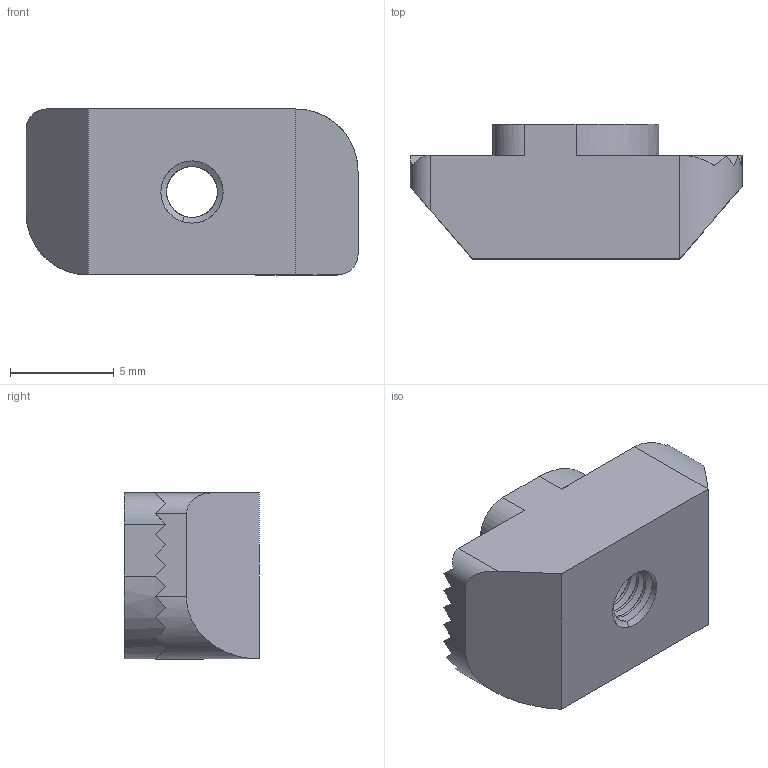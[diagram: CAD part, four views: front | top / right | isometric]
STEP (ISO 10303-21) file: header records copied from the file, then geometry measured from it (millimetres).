
FILE_DESCRIPTION (( 'STEP AP214' ), '1' );
FILE_NAME ('8-1-M3.STEP', '2019-01-08T06:14:12', ( '' ), ( '' ), 'SwSTEP 2.0', 'SolidWorks 2018', '' );
FILE_SCHEMA (( 'AUTOMOTIVE_DESIGN' ));
Length unit declared in the file: millimetre
Products named in the file (1): 8-1-M3
Bounding box: 16 x 6.54 x 8 mm (x, y, z)
Volume: 575.9 mm3; surface area: 573.9 mm2
Topology: 1 solids, 1 shells, 83 faces, 228 edges, 147 vertices
Faces by surface type: plane 44, cylinder 35, bspline 4
Entity records: 4221 total; most frequent: CARTESIAN_POINT 2387, ORIENTED_EDGE 456, DIRECTION 295, EDGE_CURVE 228, VERTEX_POINT 147, VECTOR 115, LINE 115, AXIS2_PLACEMENT_3D 90
